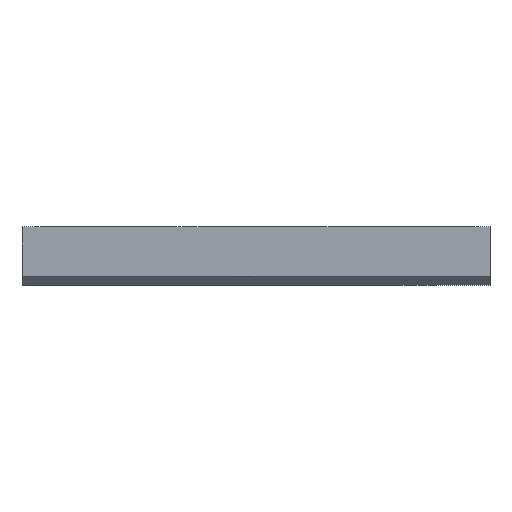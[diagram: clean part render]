
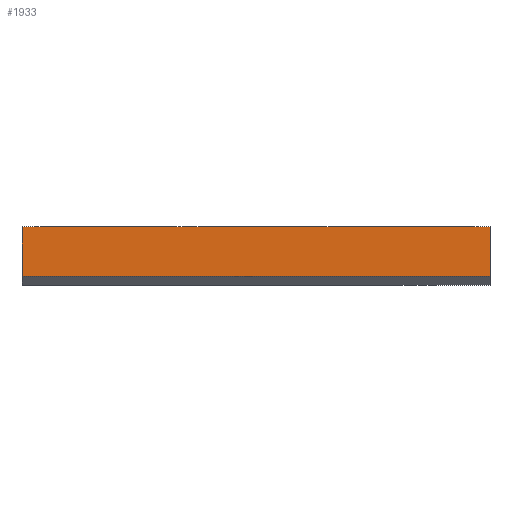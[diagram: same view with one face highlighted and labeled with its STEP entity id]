
A CAD part, front view. The second image highlights one B-rep face of the part: STEP entity #1933.
In plain terms, the highlighted planar face has unit normal (0, -1, 0).
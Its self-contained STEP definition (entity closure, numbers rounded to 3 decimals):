
#347 = DIRECTION ( 'NONE',  ( 1., 0., 0. ) ) ;
#700 = CARTESIAN_POINT ( 'NONE',  ( 160., 0., 3. ) ) ;
#1047 = CARTESIAN_POINT ( 'NONE',  ( 80., 0., 20. ) ) ;
#1491 = DIRECTION ( 'NONE',  ( 0., -1., 0. ) ) ;
#1610 = ORIENTED_EDGE ( 'NONE', *, *, #7822, .T. ) ;
#1848 = LINE ( 'NONE', #6836, #5455 ) ;
#1933 = ADVANCED_FACE ( 'NONE', ( #7957 ), #4179, .T. ) ;
#1950 = CARTESIAN_POINT ( 'NONE',  ( 0., 0., 3. ) ) ;
#2078 = DIRECTION ( 'NONE',  ( 0., 0., 1. ) ) ;
#2079 = LINE ( 'NONE', #6068, #5477 ) ;
#2092 = EDGE_CURVE ( 'NONE', #8142, #4651, #3833, .T. ) ;
#2566 = VERTEX_POINT ( 'NONE', #1950 ) ;
#2634 = VECTOR ( 'NONE', #4358, 1000. ) ;
#3797 = EDGE_CURVE ( 'NONE', #2566, #8142, #2079, .T. ) ;
#3833 = LINE ( 'NONE', #1047, #5834 ) ;
#4031 = DIRECTION ( 'NONE',  ( 0., 0., 1. ) ) ;
#4162 = ORIENTED_EDGE ( 'NONE', *, *, #5149, .T. ) ;
#4179 = PLANE ( 'NONE',  #5793 ) ;
#4358 = DIRECTION ( 'NONE',  ( 1., 0., 0. ) ) ;
#4651 = VERTEX_POINT ( 'NONE', #7179 ) ;
#5149 = EDGE_CURVE ( 'NONE', #7017, #4651, #1848, .T. ) ;
#5455 = VECTOR ( 'NONE', #2078, 1000. ) ;
#5458 = CARTESIAN_POINT ( 'NONE',  ( 0., 0., 20. ) ) ;
#5477 = VECTOR ( 'NONE', #4031, 1000. ) ;
#5508 = EDGE_LOOP ( 'NONE', ( #4162, #7654, #6500, #1610 ) ) ;
#5552 = CARTESIAN_POINT ( 'NONE',  ( 0., 0., 0. ) ) ;
#5793 = AXIS2_PLACEMENT_3D ( 'NONE', #5552, #1491, #6234 ) ;
#5834 = VECTOR ( 'NONE', #347, 1000. ) ;
#6033 = LINE ( 'NONE', #8387, #2634 ) ;
#6068 = CARTESIAN_POINT ( 'NONE',  ( 0., 0., 11.5 ) ) ;
#6234 = DIRECTION ( 'NONE',  ( 0., 0., -1. ) ) ;
#6500 = ORIENTED_EDGE ( 'NONE', *, *, #3797, .F. ) ;
#6836 = CARTESIAN_POINT ( 'NONE',  ( 160., 0., 11.5 ) ) ;
#7017 = VERTEX_POINT ( 'NONE', #700 ) ;
#7179 = CARTESIAN_POINT ( 'NONE',  ( 160., 0., 20. ) ) ;
#7654 = ORIENTED_EDGE ( 'NONE', *, *, #2092, .F. ) ;
#7822 = EDGE_CURVE ( 'NONE', #2566, #7017, #6033, .T. ) ;
#7957 = FACE_OUTER_BOUND ( 'NONE', #5508, .T. ) ;
#8142 = VERTEX_POINT ( 'NONE', #5458 ) ;
#8387 = CARTESIAN_POINT ( 'NONE',  ( 80., 0., 3. ) ) ;
